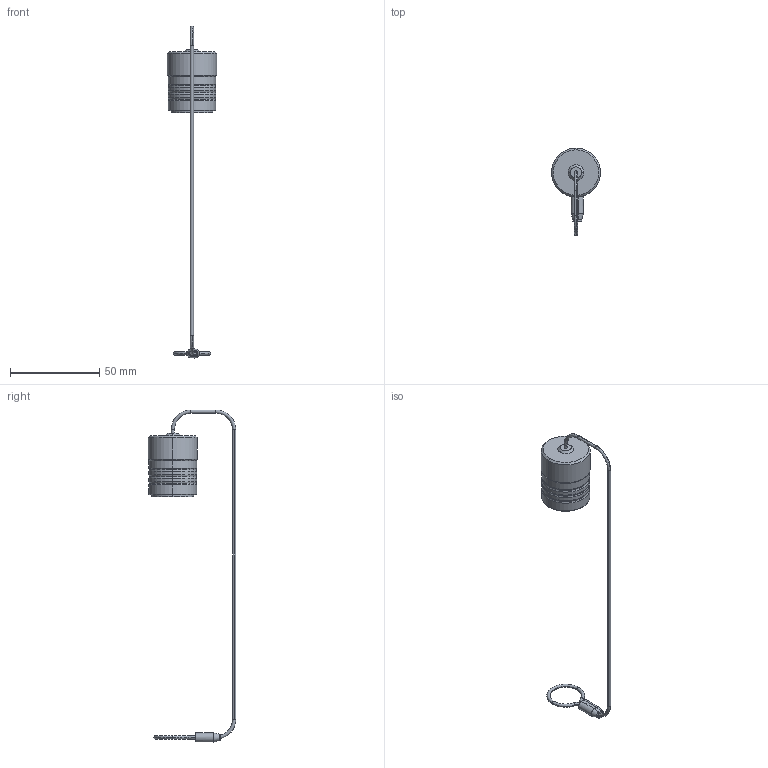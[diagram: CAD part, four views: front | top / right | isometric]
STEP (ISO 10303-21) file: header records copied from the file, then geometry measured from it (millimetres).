
FILE_DESCRIPTION (( 'STEP AP214' ), '1' );
FILE_NAME ('QSEAL-DCPEN -R4.STEP', '2025-04-04T00:29:37', ( '' ), ( '' ), 'SwSTEP 2.0', 'SolidWorks 2024', '' );
FILE_SCHEMA (( 'AUTOMOTIVE_DESIGN' ));
Length unit declared in the file: inch
Products named in the file (1): QSEAL-DCPEN -R4
Bounding box: 27.43 x 48.9 x 185.53 mm (x, y, z)
Volume: 11173.2 mm3; surface area: 8293.5 mm2
Topology: 3 solids, 3 shells, 135 faces, 313 edges, 188 vertices
Faces by surface type: cylinder 53, plane 34, torus 34, cone 10, bspline 4
Entity records: 4446 total; most frequent: CARTESIAN_POINT 1205, DIRECTION 755, ORIENTED_EDGE 626, AXIS2_PLACEMENT_3D 326, EDGE_CURVE 313, CIRCLE 194, VERTEX_POINT 188, EDGE_LOOP 143
